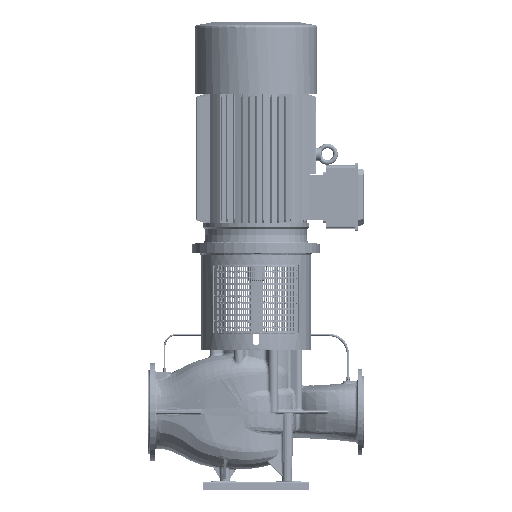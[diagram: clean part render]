
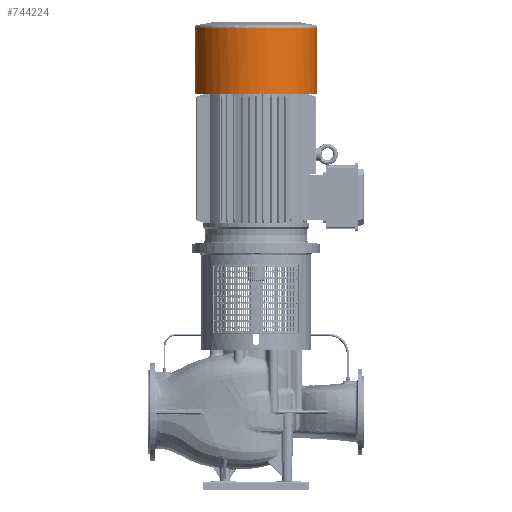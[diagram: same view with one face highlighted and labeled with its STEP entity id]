
A CAD part, top view. The second image highlights one B-rep face of the part: STEP entity #744224.
In plain terms, the highlighted cylindrical face has radius 315 mm (diameter 630 mm), a partial arc.
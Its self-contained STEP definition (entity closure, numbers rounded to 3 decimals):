
#722136=CARTESIAN_POINT('',(0.,331.,0.));
#722137=DIRECTION('',(0.,1.,0.));
#722138=DIRECTION('',(-0.994,0.,0.113));
#722139=AXIS2_PLACEMENT_3D('',#722136,#722137,#722138);
#722141=CARTESIAN_POINT('',(0.,331.,0.));
#722142=DIRECTION('',(0.,1.,0.));
#722143=DIRECTION('',(1.,0.,0.));
#722144=AXIS2_PLACEMENT_3D('',#722141,#722142,#722143);
#722170=CARTESIAN_POINT('',(0.,671.919,
0.));
#722171=DIRECTION('',(0.,-1.,0.));
#722172=DIRECTION('',(0.,0.,-1.));
#722173=AXIS2_PLACEMENT_3D('',#722170,#722171,#722172);
#722175=CARTESIAN_POINT('',(0.,671.919,
0.));
#722176=DIRECTION('',(0.,-1.,0.));
#722177=DIRECTION('',(1.,0.,0.));
#722178=AXIS2_PLACEMENT_3D('',#722175,#722176,#722177);
#722190=CARTESIAN_POINT('',(0.,671.919,
0.));
#722191=DIRECTION('',(0.,-1.,0.));
#722192=DIRECTION('',(0.,0.,1.));
#722193=AXIS2_PLACEMENT_3D('',#722190,#722191,#722192);
#722195=CARTESIAN_POINT('',(0.,671.919,
0.));
#722196=DIRECTION('',(0.,-1.,0.));
#722197=DIRECTION('',(-0.994,0.,-0.113));
#722198=AXIS2_PLACEMENT_3D('',#722195,#722196,#722197);
#725958=DIRECTION('',(0.,-1.,0.));
#725959=VECTOR('',#725958,340.919);
#725960=CARTESIAN_POINT('',(-313.,671.919,35.44));
#725961=LINE('',#725960,#725959);
#725966=DIRECTION('',(0.,1.,0.));
#725967=VECTOR('',#725966,340.919);
#725968=CARTESIAN_POINT('',(-313.,331.,-35.44));
#725969=LINE('',#725968,#725967);
#736727=CARTESIAN_POINT('',(-313.,331.,35.44));
#736728=CARTESIAN_POINT('',(315.,331.,0.));
#736729=VERTEX_POINT('',#736727);
#736730=VERTEX_POINT('',#736728);
#736731=CARTESIAN_POINT('',(-313.,331.,-35.44));
#736732=VERTEX_POINT('',#736731);
#736735=CARTESIAN_POINT('',(-313.,671.919,-35.44));
#736736=VERTEX_POINT('',#736735);
#736737=CARTESIAN_POINT('',(-313.,671.919,35.44));
#736738=VERTEX_POINT('',#736737);
#736739=CARTESIAN_POINT('',(315.,671.919,0.));
#736740=CARTESIAN_POINT('',(0.,671.919,315.));
#736741=VERTEX_POINT('',#736739);
#736742=VERTEX_POINT('',#736740);
#736743=CARTESIAN_POINT('',(0.,671.919,-315.));
#736744=VERTEX_POINT('',#736743);
#744203=CARTESIAN_POINT('',(0.,324.182,
0.));
#744204=DIRECTION('',(0.,1.,0.));
#744205=DIRECTION('',(1.,0.,0.));
#744206=AXIS2_PLACEMENT_3D('',#744203,#744204,#744205);
#744207=CYLINDRICAL_SURFACE('',#744206,315.);
#744209=ORIENTED_EDGE('',*,*,#744208,.F.);
#744211=ORIENTED_EDGE('',*,*,#744210,.F.);
#744213=ORIENTED_EDGE('',*,*,#744212,.F.);
#744215=ORIENTED_EDGE('',*,*,#744214,.F.);
#744216=ORIENTED_EDGE('',*,*,#744191,.F.);
#744217=ORIENTED_EDGE('',*,*,#744189,.F.);
#744219=ORIENTED_EDGE('',*,*,#744218,.F.);
#744221=ORIENTED_EDGE('',*,*,#744220,.F.);
#744222=EDGE_LOOP('',(#744209,#744211,#744213,#744215,#744216,#744217,#744219,
#744221));
#744223=FACE_OUTER_BOUND('',#744222,.F.);
#744224=ADVANCED_FACE('',(#744223),#744207,.T.);
#722140=CIRCLE('',#722139,315.);
#722145=CIRCLE('',#722144,315.);
#722174=CIRCLE('',#722173,315.);
#722179=CIRCLE('',#722178,315.);
#722194=CIRCLE('',#722193,315.);
#722199=CIRCLE('',#722198,315.);
#744189=EDGE_CURVE('',#736729,#736730,#722140,.T.);
#744191=EDGE_CURVE('',#736730,#736732,#722145,.T.);
#744208=EDGE_CURVE('',#736741,#736742,#722179,.T.);
#744210=EDGE_CURVE('',#736744,#736741,#722174,.T.);
#744212=EDGE_CURVE('',#736736,#736744,#722199,.T.);
#744214=EDGE_CURVE('',#736732,#736736,#725969,.T.);
#744218=EDGE_CURVE('',#736738,#736729,#725961,.T.);
#744220=EDGE_CURVE('',#736742,#736738,#722194,.T.);
